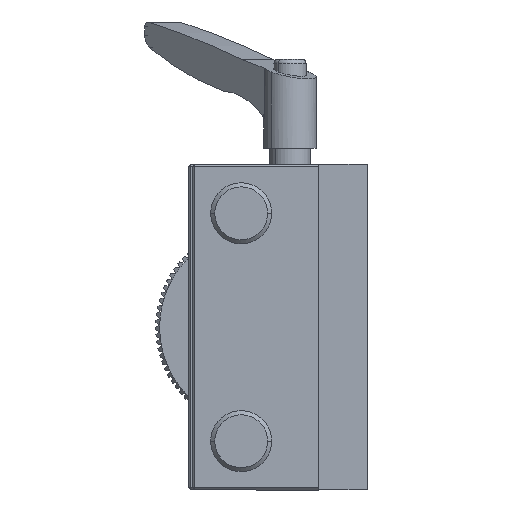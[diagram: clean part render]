
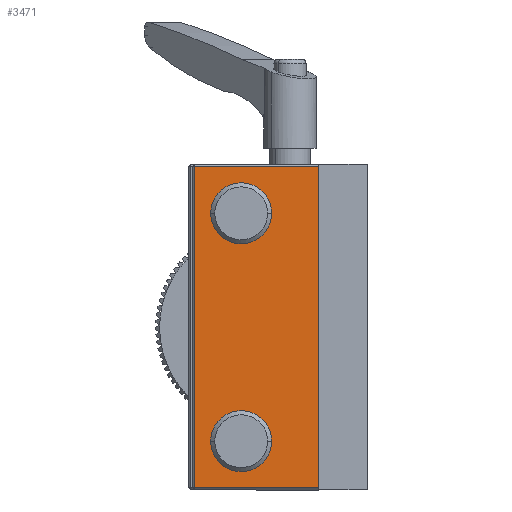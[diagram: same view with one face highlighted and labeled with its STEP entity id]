
A CAD part, left-side view. The second image highlights one B-rep face of the part: STEP entity #3471.
In plain terms, the highlighted planar face has unit normal (-1, 0, 0) as drawn and (0, 1, 0) by its records, which use the part's own axes.
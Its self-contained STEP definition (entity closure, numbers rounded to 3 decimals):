
#638 = CIRCLE ( 'NONE', #12863, 7.5 ) ;
#1161 = CARTESIAN_POINT ( 'NONE',  ( 28., 20., 11. ) ) ;
#2932 = DIRECTION ( 'NONE',  ( 0., 1., 0. ) ) ;
#3263 = VERTEX_POINT ( 'NONE', #5434 ) ;
#3266 = AXIS2_PLACEMENT_3D ( 'NONE', #20872, #7619, #23113 ) ;
#3304 = DIRECTION ( 'NONE',  ( 0., 1., 0. ) ) ;
#3471 = ADVANCED_FACE ( 'NONE', ( #25601, #20359, #26998 ), #11702, .T. ) ;
#3777 = EDGE_CURVE ( 'NONE', #11640, #18687, #8898, .T. ) ;
#4124 = AXIS2_PLACEMENT_3D ( 'NONE', #19392, #10984, #10793 ) ;
#5045 = CARTESIAN_POINT ( 'NONE',  ( -28., 20., 11. ) ) ;
#5133 = EDGE_CURVE ( 'NONE', #8095, #11640, #19097, .T. ) ;
#5189 = VERTEX_POINT ( 'NONE', #26368 ) ;
#5434 = CARTESIAN_POINT ( 'NONE',  ( 39.5, 20., -15.5 ) ) ;
#5921 = ORIENTED_EDGE ( 'NONE', *, *, #6843, .F. ) ;
#6843 = EDGE_CURVE ( 'NONE', #5189, #21057, #14505, .T. ) ;
#6984 = CARTESIAN_POINT ( 'NONE',  ( 28., 20., -4. ) ) ;
#7485 = EDGE_CURVE ( 'NONE', #14988, #21819, #28065, .T. ) ;
#7619 = DIRECTION ( 'NONE',  ( 0., 1., 0. ) ) ;
#7908 = DIRECTION ( 'NONE',  ( -1., 0., 0. ) ) ;
#8095 = VERTEX_POINT ( 'NONE', #23995 ) ;
#8898 = LINE ( 'NONE', #10693, #14078 ) ;
#9000 = CARTESIAN_POINT ( 'NONE',  ( -28., 20., 3.5 ) ) ;
#9839 = ORIENTED_EDGE ( 'NONE', *, *, #3777, .T. ) ;
#9881 = EDGE_CURVE ( 'NONE', #21819, #14988, #638, .T. ) ;
#10484 = EDGE_CURVE ( 'NONE', #3263, #8095, #16756, .T. ) ;
#10693 = CARTESIAN_POINT ( 'NONE',  ( 40., 20., 15. ) ) ;
#10793 = DIRECTION ( 'NONE',  ( 0., 0., 1. ) ) ;
#10984 = DIRECTION ( 'NONE',  ( 0., 1., 0. ) ) ;
#11211 = DIRECTION ( 'NONE',  ( 0., 0., 1. ) ) ;
#11640 = VERTEX_POINT ( 'NONE', #26043 ) ;
#11702 = PLANE ( 'NONE',  #4124 ) ;
#11810 = EDGE_LOOP ( 'NONE', ( #9839, #19891, #22033, #12373 ) ) ;
#12373 = ORIENTED_EDGE ( 'NONE', *, *, #5133, .T. ) ;
#12769 = CARTESIAN_POINT ( 'NONE',  ( -39.5, 20., 15.5 ) ) ;
#12855 = DIRECTION ( 'NONE',  ( 0., 0., 1. ) ) ;
#12863 = AXIS2_PLACEMENT_3D ( 'NONE', #16482, #3304, #18753 ) ;
#13204 = VECTOR ( 'NONE', #12855, 1000. ) ;
#14078 = VECTOR ( 'NONE', #17208, 1000. ) ;
#14207 = DIRECTION ( 'NONE',  ( 0., 0., -1. ) ) ;
#14505 = CIRCLE ( 'NONE', #18216, 7.5 ) ;
#14751 = ORIENTED_EDGE ( 'NONE', *, *, #9881, .F. ) ;
#14815 = EDGE_LOOP ( 'NONE', ( #14751, #20806 ) ) ;
#14988 = VERTEX_POINT ( 'NONE', #6984 ) ;
#16102 = CARTESIAN_POINT ( 'NONE',  ( -28., 20., 3.5 ) ) ;
#16482 = CARTESIAN_POINT ( 'NONE',  ( 28., 20., 3.5 ) ) ;
#16756 = LINE ( 'NONE', #23303, #28649 ) ;
#16998 = EDGE_LOOP ( 'NONE', ( #24961, #5921 ) ) ;
#17208 = DIRECTION ( 'NONE',  ( 1., 0., 0. ) ) ;
#17380 = EDGE_CURVE ( 'NONE', #21057, #5189, #19424, .T. ) ;
#18216 = AXIS2_PLACEMENT_3D ( 'NONE', #16102, #2932, #18356 ) ;
#18356 = DIRECTION ( 'NONE',  ( 0., 0., 1. ) ) ;
#18687 = VERTEX_POINT ( 'NONE', #24932 ) ;
#18753 = DIRECTION ( 'NONE',  ( 0., 0., 1. ) ) ;
#18776 = EDGE_CURVE ( 'NONE', #18687, #3263, #19019, .T. ) ;
#19019 = LINE ( 'NONE', #25320, #24246 ) ;
#19097 = LINE ( 'NONE', #12769, #13204 ) ;
#19392 = CARTESIAN_POINT ( 'NONE',  ( 0., 20., 0. ) ) ;
#19424 = CIRCLE ( 'NONE', #28106, 7.5 ) ;
#19891 = ORIENTED_EDGE ( 'NONE', *, *, #18776, .T. ) ;
#20359 = FACE_BOUND ( 'NONE', #16998, .T. ) ;
#20806 = ORIENTED_EDGE ( 'NONE', *, *, #7485, .F. ) ;
#20872 = CARTESIAN_POINT ( 'NONE',  ( 28., 20., 3.5 ) ) ;
#21057 = VERTEX_POINT ( 'NONE', #5045 ) ;
#21819 = VERTEX_POINT ( 'NONE', #1161 ) ;
#22033 = ORIENTED_EDGE ( 'NONE', *, *, #10484, .T. ) ;
#23113 = DIRECTION ( 'NONE',  ( 0., 0., 1. ) ) ;
#23303 = CARTESIAN_POINT ( 'NONE',  ( -40., 20., -15.5 ) ) ;
#23995 = CARTESIAN_POINT ( 'NONE',  ( -39.5, 20., -15.5 ) ) ;
#24246 = VECTOR ( 'NONE', #14207, 1000. ) ;
#24498 = DIRECTION ( 'NONE',  ( 0., 1., 0. ) ) ;
#24932 = CARTESIAN_POINT ( 'NONE',  ( 39.5, 20., 15. ) ) ;
#24961 = ORIENTED_EDGE ( 'NONE', *, *, #17380, .F. ) ;
#25320 = CARTESIAN_POINT ( 'NONE',  ( 39.5, 20., -15.5 ) ) ;
#25601 = FACE_BOUND ( 'NONE', #14815, .T. ) ;
#26043 = CARTESIAN_POINT ( 'NONE',  ( -39.5, 20., 15. ) ) ;
#26368 = CARTESIAN_POINT ( 'NONE',  ( -28., 20., -4. ) ) ;
#26998 = FACE_OUTER_BOUND ( 'NONE', #11810, .T. ) ;
#28065 = CIRCLE ( 'NONE', #3266, 7.5 ) ;
#28106 = AXIS2_PLACEMENT_3D ( 'NONE', #9000, #24498, #11211 ) ;
#28649 = VECTOR ( 'NONE', #7908, 1000. ) ;
